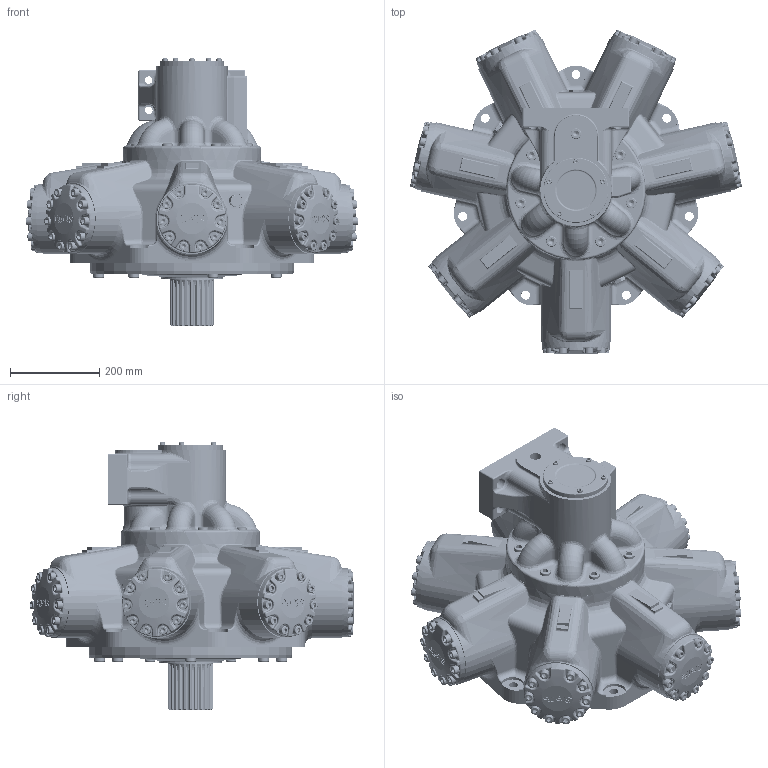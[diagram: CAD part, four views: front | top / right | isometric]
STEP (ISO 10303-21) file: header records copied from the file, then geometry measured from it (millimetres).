
FILE_DESCRIPTION(/* description */ (''),/* implementation_level */ '2;1');
FILE_NAME(/* name */ 'HMB325_Z_SM4.stp',/* time_stamp */ '2025-09-04T11:49:51+01:00',/* author */ ('ccallanga'),/* organization */ (''),/* preprocessor_version */ 'ST-DEVELOPER v20',/* originating_system */ 'Autodesk Inventor 2024',/* authorisation */ '');
FILE_SCHEMA (('AUTOMOTIVE_DESIGN { 1 0 10303 214 3 1 1 }'));
Products named in the file (1): HMB325 Web Assembly_Simplify_1
Bounding box: 744.35 x 728.18 x 598.72 mm (x, y, z)
Volume: 71802325.1 mm3; surface area: 1704676.9 mm2
Topology: 1 solids, 1 shells, 6139 faces, 14942 edges, 8823 vertices
Faces by surface type: bspline 2334, plane 1619, cylinder 1329, torus 526, cone 166, sphere 165
Full cylindrical faces by diameter (mm): 2.2 x4, 11.913 x5, 12.7 x5, 14.351 x2, 16.51 x1, 17 x4, 17.323 x1, 19.05 x70, 20 x7, 20.637 x70, 23.825 x14, 25 x4, 25.4 x14, 26.92 x2, 38 x2, 38.1 x3, 99.2 x1, 101.575 x1, 106.68 x1, 139.7 x1, 146.05 x1, 311 x1, 311.15 x1, 457.11 x1
Entity records: 276761 total; most frequent: CARTESIAN_POINT 144840, ORIENTED_EDGE 29330, DIRECTION 20959, EDGE_CURVE 14665, VERTEX_POINT 8823, AXIS2_PLACEMENT_3D 8183, EDGE_LOOP 6456, STYLED_ITEM 6140
